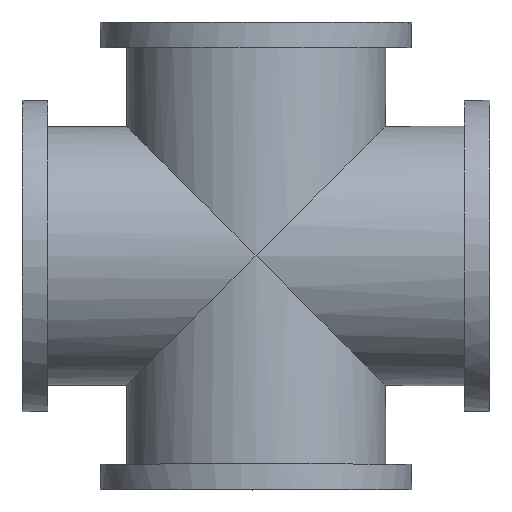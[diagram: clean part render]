
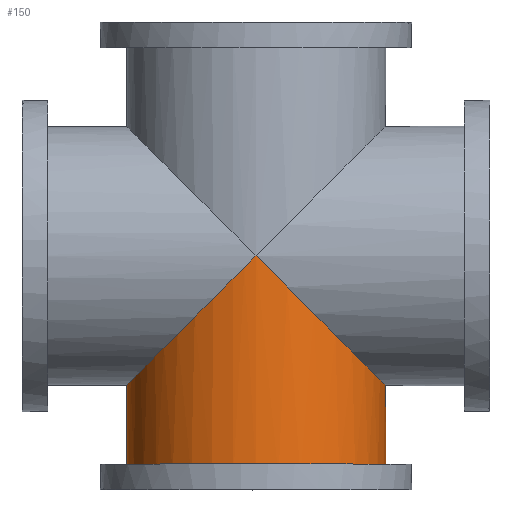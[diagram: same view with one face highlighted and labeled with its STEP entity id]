
A CAD part, top view. The second image highlights one B-rep face of the part: STEP entity #150.
In plain terms, the highlighted cylindrical face has radius 127 mm (diameter 254 mm), a full revolution.
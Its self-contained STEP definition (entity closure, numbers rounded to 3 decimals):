
#150 = ADVANCED_FACE( '', ( #309, #310 ), #311, .T. );
#309 = FACE_OUTER_BOUND( '', #611, .T. );
#310 = FACE_OUTER_BOUND( '', #612, .T. );
#311 = CYLINDRICAL_SURFACE( '', #613, 127. );
#611 = EDGE_LOOP( '', ( #901, #902 ) );
#612 = EDGE_LOOP( '', ( #903 ) );
#613 = AXIS2_PLACEMENT_3D( '', #904, #905, #906 );
#901 = ORIENTED_EDGE( '', *, *, #1330, .F. );
#902 = ORIENTED_EDGE( '', *, *, #1331, .F. );
#903 = ORIENTED_EDGE( '', *, *, #1332, .T. );
#904 = CARTESIAN_POINT( '', ( 0., -216.3, 0. ) );
#905 = DIRECTION( '', ( 0., -1., 0. ) );
#906 = DIRECTION( '', ( 0., 0., 1. ) );
#1330 = EDGE_CURVE( '', #1487, #1488, #1489, .T. );
#1331 = EDGE_CURVE( '', #1488, #1487, #1490, .T. );
#1332 = EDGE_CURVE( '', #1491, #1491, #1492, .T. );
#1487 = VERTEX_POINT( '', #1736 );
#1488 = VERTEX_POINT( '', #1737 );
#1489 = ELLIPSE( '', #1738, 179.605, 127. );
#1490 = ELLIPSE( '', #1739, 179.605, 127. );
#1491 = VERTEX_POINT( '', #1740 );
#1492 = CIRCLE( '', #1741, 127. );
#1736 = CARTESIAN_POINT( '', ( 0., 0., -127. ) );
#1737 = CARTESIAN_POINT( '', ( 0., 0., 127. ) );
#1738 = AXIS2_PLACEMENT_3D( '', #2056, #2057, #2058 );
#1739 = AXIS2_PLACEMENT_3D( '', #2059, #2060, #2061 );
#1740 = CARTESIAN_POINT( '', ( 127., -216.3, 0. ) );
#1741 = AXIS2_PLACEMENT_3D( '', #2062, #2063, #2064 );
#2056 = CARTESIAN_POINT( '', ( 0., 0., 0. ) );
#2057 = DIRECTION( '', ( -0.707, 0.707, 0. ) );
#2058 = DIRECTION( '', ( 0.707, 0.707, 0. ) );
#2059 = CARTESIAN_POINT( '', ( 0., 0., 0. ) );
#2060 = DIRECTION( '', ( 0.707, 0.707, 0. ) );
#2061 = DIRECTION( '', ( -0.707, 0.707, 0. ) );
#2062 = CARTESIAN_POINT( '', ( 0., -216.3, 0. ) );
#2063 = DIRECTION( '', ( 0., 1., 0. ) );
#2064 = DIRECTION( '', ( 1., 0., 0. ) );
